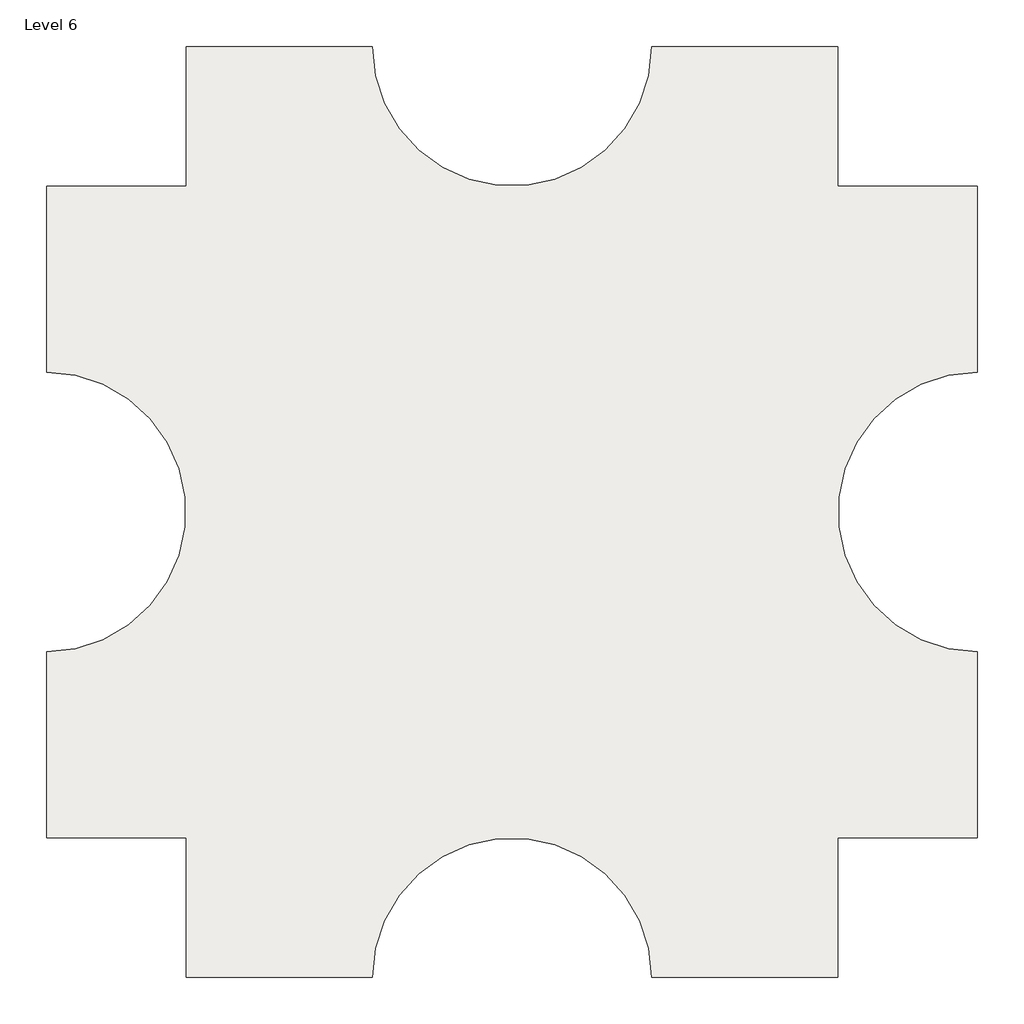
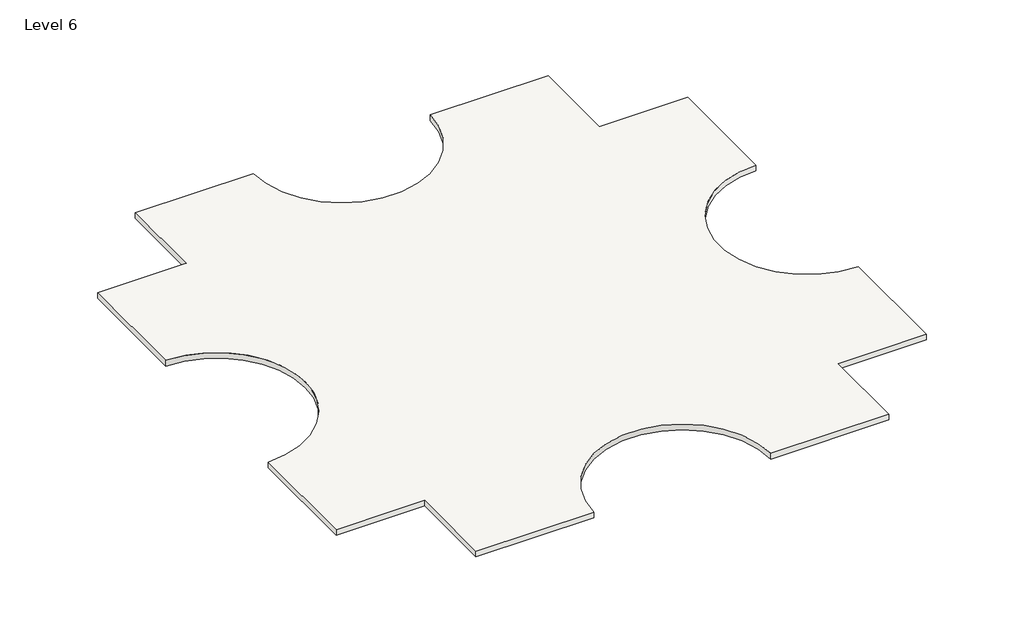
# One storey: 1 slab.
"""IFC4 building model written with IfcOpenShell, lengths in millimetres."""

import ifcopenshell
import ifcopenshell.guid

model = None  # the IFC model being written
_history = None  # IfcOwnerHistory: only IFC2X3 demands one
_inside = {}  # id of a spatial element -> (the spatial element, [elements in it])
_under = {}  # id of a project, library or spatial element -> (it, [spatial elements below it])
_declared = {}  # id of a project -> (the project, [libraries it declares])
_typed = {}  # id of a type object -> (the type object, [elements of that type])
_made_of = {}  # id of a material, layer set ... -> (it, [elements and type objects made of it])


def new_model(schema):
    """Start an empty IFC model of exactly this schema.

    Asked for "IFC4X3", IfcOpenShell would pick the latest addendum, in which some entities
    have other attributes; the version numbers below select the first issue.
    IFC2X3 requires an IfcOwnerHistory on every rooted entity: one is made here for all.
    """
    global model, _history
    if schema == "IFC4X3":
        model = ifcopenshell.file(schema_version=(4, 3, 0, 0))
    else:
        model = ifcopenshell.file(schema=schema)
    _inside.clear()
    _under.clear()
    _declared.clear()
    _typed.clear()
    _made_of.clear()
    _history = None
    if model.schema == "IFC2X3":
        org = make("IfcOrganization", Name="unknown")
        user = make(
            "IfcPersonAndOrganization",
            ThePerson=make("IfcPerson", FamilyName="unknown"),
            TheOrganization=org,
        )
        app = make(
            "IfcApplication",
            ApplicationDeveloper=org,
            Version="unknown",
            ApplicationFullName="unknown",
            ApplicationIdentifier="unknown",
        )
        _history = make(
            "IfcOwnerHistory",
            OwningUser=user,
            OwningApplication=app,
            ChangeAction="ADDED",
            CreationDate=0,
        )
    return model


def make(cls, **values):
    """One entity of the class cls with the attributes given. An attribute that is None is left unset."""
    return model.create_entity(
        cls, **{name: value for name, value in values.items() if value is not None}
    )


def rooted(cls, **values):
    """An entity with a GlobalId (a new one), such as an element, a storey or a relation."""
    return make(cls, GlobalId=ifcopenshell.guid.new(), OwnerHistory=_history, **values)


def si_unit(unit_type, name, prefix=None):
    """IfcSIUnit, for example si_unit("LENGTHUNIT", "METRE", prefix="MILLI")."""
    return make("IfcSIUnit", UnitType=unit_type, Prefix=prefix, Name=name)


def assignment(units):
    """IfcUnitAssignment: the units of a project."""
    return None if units is None else make("IfcUnitAssignment", Units=units)


def point(xyz):
    """IfcCartesianPoint."""
    return None if xyz is None else make("IfcCartesianPoint", Coordinates=xyz)


def direction(xyz):
    """IfcDirection."""
    return None if xyz is None else make("IfcDirection", DirectionRatios=xyz)


def frame(location, z_axis=None, x_axis=None):
    """IfcAxis2Placement3D, a coordinate frame: its origin and axes. An axis left out is left unset."""
    return make(
        "IfcAxis2Placement3D",
        Location=point(location),
        Axis=direction(z_axis),
        RefDirection=direction(x_axis),
    )


def frame_2d(location, x_axis=None):
    """IfcAxis2Placement2D, a coordinate frame in the plane: its origin and x axis."""
    return make(
        "IfcAxis2Placement2D", Location=point(location), RefDirection=direction(x_axis)
    )


def origin():
    """The frame at (0, 0, 0) with its axes left unset."""
    return frame((0.0, 0.0, 0.0))


def place(relative_to, where):
    """IfcLocalPlacement: puts the frame where relative to a parent placement (None: the world)."""
    return make(
        "IfcLocalPlacement", PlacementRelTo=relative_to, RelativePlacement=where
    )


def context(
    kind, dimensions, precision=None, world=None, true_north=None, identifier=None
):
    """IfcGeometricRepresentationContext, for example the 3D "Model" context."""
    return make(
        "IfcGeometricRepresentationContext",
        ContextIdentifier=identifier,
        ContextType=kind,
        CoordinateSpaceDimension=dimensions,
        Precision=precision,
        WorldCoordinateSystem=world,
        TrueNorth=true_north,
    )


def project(units=None, contexts=None):
    """IfcProject with its units and contexts."""
    return rooted(
        "IfcProject",
        Name="project",
        RepresentationContexts=contexts,
        UnitsInContext=assignment(units),
    )


def spatial(cls, under=None, at=None, **own):
    """A site, building, storey or space (cls), placed at a placement, below another one or the project."""
    s = rooted(cls, ObjectPlacement=at, **own)
    if under is not None:
        _under.setdefault(under.id(), (under, []))[1].append(s)
    return s


def polyline(points):
    """IfcPolyline through the points."""
    return make("IfcPolyline", Points=[point(p) for p in points])


def circle_curve(where, radius):
    """IfcCircle in the frame where."""
    return make("IfcCircle", Position=where, Radius=radius)


def trimmed(basis, trim1, trim2, sense, master):
    """IfcTrimmedCurve: the piece of a basis curve between two trims."""
    return make(
        "IfcTrimmedCurve",
        BasisCurve=basis,
        Trim1=trim1,
        Trim2=trim2,
        SenseAgreement=sense,
        MasterRepresentation=master,
    )


def segment(curve, same_sense, transition):
    """IfcCompositeCurveSegment."""
    return make(
        "IfcCompositeCurveSegment",
        Transition=transition,
        SameSense=same_sense,
        ParentCurve=curve,
    )


def composite_curve(segments, self_intersect=None):
    """IfcCompositeCurve: segments joined end to end."""
    return make("IfcCompositeCurve", Segments=segments, SelfIntersect=self_intersect)


def outline(outer, holes=None, kind="AREA"):
    """IfcArbitraryClosedProfileDef: a profile drawn as a closed curve; with holes, ...WithVoids."""
    if holes is None:
        return make("IfcArbitraryClosedProfileDef", ProfileType=kind, OuterCurve=outer)
    return make(
        "IfcArbitraryProfileDefWithVoids",
        ProfileType=kind,
        OuterCurve=outer,
        InnerCurves=holes,
    )


def extrude(swept, where, along, depth):
    """IfcExtrudedAreaSolid: the profile swept, set in the frame where, extruded along a direction by depth."""
    return make(
        "IfcExtrudedAreaSolid",
        SweptArea=swept,
        Position=where,
        ExtrudedDirection=direction(along),
        Depth=depth,
    )


def shape(context_of_items, identifier, shape_type, items):
    """IfcShapeRepresentation: the items that make up one representation, for example the "Body"."""
    return make(
        "IfcShapeRepresentation",
        ContextOfItems=context_of_items,
        RepresentationIdentifier=identifier,
        RepresentationType=shape_type,
        Items=items,
    )


def made_of(thing, what):
    """Note that an element or type object is made of a material, layer set ...; save() writes the relation."""
    if what is not None:
        _made_of.setdefault(what.id(), (what, []))[1].append(thing)
    return thing


def element(
    cls,
    number,
    at=None,
    inside=None,
    cuts=None,
    type_object=None,
    material=None,
    context=None,
    identifier="Body",
    shape_type=None,
    held_by="IfcProductDefinitionShape",
    body=None,
    shapes=None,
    **own,
):
    """One element of the class cls, such as IfcWall. Its Tag is "e" and its number.

    at: its placement. inside: the storey or other place that contains it. cuts: it is an
    opening in that element (IfcRelVoidsElement). A single representation is given by context,
    identifier, shape_type and body (its items); several are given by shapes. held_by: the class
    of the entity that holds the representations. save() writes the other relations.
    """
    e = rooted(cls, Tag="e%d" % number, ObjectPlacement=at, **own)
    if body is not None:
        shapes = [shape(context, identifier, shape_type, body)]
    if shapes is not None:
        e.Representation = make(held_by, Representations=shapes)
    if inside is not None:
        _inside.setdefault(inside.id(), (inside, []))[1].append(e)
    if cuts is not None:
        rooted(
            "IfcRelVoidsElement", RelatingBuildingElement=cuts, RelatedOpeningElement=e
        )
    if type_object is not None:
        _typed.setdefault(type_object.id(), (type_object, []))[1].append(e)
    return made_of(e, material)


def aggregate(whole, parts):
    """IfcRelAggregates: a whole, such as a stair, and the parts it consists of."""
    return rooted("IfcRelAggregates", RelatingObject=whole, RelatedObjects=parts)


def save(model, path):
    """Write the relations noted so far, then the file.

    IfcRelAggregates (storeys below a building ...), IfcRelContainedInSpatialStructure (elements
    in a storey), IfcRelDefinesByType, IfcRelAssociatesMaterial and IfcRelDeclares: one each for
    every whole, place, type object, material and project.
    """
    for whole, parts in _under.values():
        aggregate(whole, parts)
    for where, things in _inside.values():
        rooted(
            "IfcRelContainedInSpatialStructure",
            RelatedElements=things,
            RelatingStructure=where,
        )
    for kind, things in _typed.values():
        rooted("IfcRelDefinesByType", RelatedObjects=things, RelatingType=kind)
    for what, things in _made_of.values():
        rooted("IfcRelAssociatesMaterial", RelatedObjects=things, RelatingMaterial=what)
    for by, libraries in _declared.values():
        rooted("IfcRelDeclares", RelatingContext=by, RelatedDefinitions=libraries)
    model.write(path)


model = new_model("IFC4")

# Units and contexts
model_context = context("Model", 3, world=origin())
ifc_project = project(units=[si_unit("LENGTHUNIT", "METRE", prefix="MILLI")], contexts=[model_context])

# Site, building, storey
site = spatial("IfcSite", under=ifc_project)
building = spatial("IfcBuilding", under=site)
storey = spatial("IfcBuildingStorey", under=building, Name="Level 6", Elevation=15240.0)

# Slab
placement = place(None, origin())
element("IfcSlab", 1, ObjectType="Generic - 12\"", at=placement, inside=storey, context=model_context, shape_type="SweptSolid", body=[
    extrude(outline(composite_curve([segment(polyline([(-7150.3629456, 4479.6634547), (-7150.3629456, 9051.6634547), (-1054.3629456, 9051.6634547)]), True, "CONTINUOUS"), segment(trimmed(circle_curve(frame_2d((3517.6370544, 9051.6634547)), 4572.0), [point((-1054.3629456, 9051.6634547))], [point((8089.6370544, 9051.6634547))], True, "CARTESIAN"), True, "CONTINUOUS"), segment(polyline([(8089.6370544, 9051.6634547), (14185.6370544, 9051.6634547), (14185.6370544, 4479.6634547), (18757.6370544, 4479.6634547), (18757.6370544, -1616.3365453)]), True, "CONTINUOUS"), segment(trimmed(circle_curve(frame_2d((18757.6370544, -6188.3365453)), 4572.0), [point((18757.6370544, -1616.3365453))], [point((18757.6370544, -10760.3365453))], True, "CARTESIAN"), True, "CONTINUOUS"), segment(polyline([(18757.6370544, -10760.3365453), (18757.6370544, -16856.3365453), (14185.6370544, -16856.3365453), (14185.6370544, -21428.3365453), (8089.6370544, -21428.3365453)]), True, "CONTINUOUS"), segment(trimmed(circle_curve(frame_2d((3517.6370544, -21428.3365453)), 4572.0), [point((8089.6370544, -21428.3365453))], [point((-1054.3629456, -21428.3365453))], True, "CARTESIAN"), True, "CONTINUOUS"), segment(polyline([(-1054.3629456, -21428.3365453), (-7150.3629456, -21428.3365453), (-7150.3629456, -16856.3365453), (-11722.3629456, -16856.3365453), (-11722.3629456, -10760.3365453)]), True, "CONTINUOUS"), segment(trimmed(circle_curve(frame_2d((-11722.3629456, -6188.3365453)), 4572.0), [point((-11722.3629456, -10760.3365453))], [point((-11722.3629456, -1616.3365453))], True, "CARTESIAN"), True, "CONTINUOUS"), segment(polyline([(-11722.3629456, -1616.3365453), (-11722.3629456, 4479.6634547), (-7150.3629456, 4479.6634547)]), True, "CONTINUOUS")], self_intersect=False)), frame((0.0, 0.0, 14935.2), z_axis=(0.0, 0.0, 1.0), x_axis=(1.0, 0.0, 0.0)), (0.0, 0.0, 1.0), 304.8),
])

save(model, "model.ifc")
